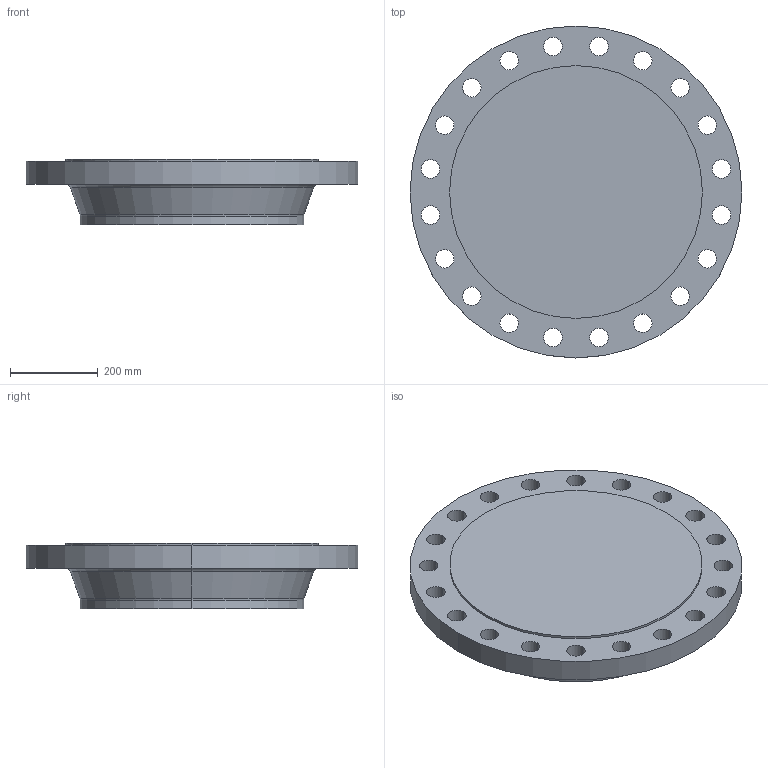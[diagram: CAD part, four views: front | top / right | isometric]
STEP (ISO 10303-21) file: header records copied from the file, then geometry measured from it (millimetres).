
FILE_DESCRIPTION (( 'STEP AP214' ), '1' );
FILE_NAME ('PN40 DN500 Type 21(ii) - Type E Face.STEP', '2018-12-29T04:22:19', ( '' ), ( '' ), 'SwSTEP 2.0', 'SolidWorks 2019', '' );
FILE_SCHEMA (( 'AUTOMOTIVE_DESIGN' ));
Length unit declared in the file: millimetre
Products named in the file (1): PN40 DN500 Type 21(ii) - Type E Face
Bounding box: 755 x 755 x 150 mm (x, y, z)
Volume: 43425673.1 mm3; surface area: 1222886.2 mm2
Topology: 1 solids, 1 shells, 56 faces, 150 edges, 98 vertices
Faces by surface type: cylinder 46, torus 4, plane 4, cone 2
Entity records: 1922 total; most frequent: DIRECTION 366, CARTESIAN_POINT 305, ORIENTED_EDGE 300, AXIS2_PLACEMENT_3D 159, EDGE_CURVE 150, CIRCLE 102, EDGE_LOOP 98, VERTEX_POINT 98
